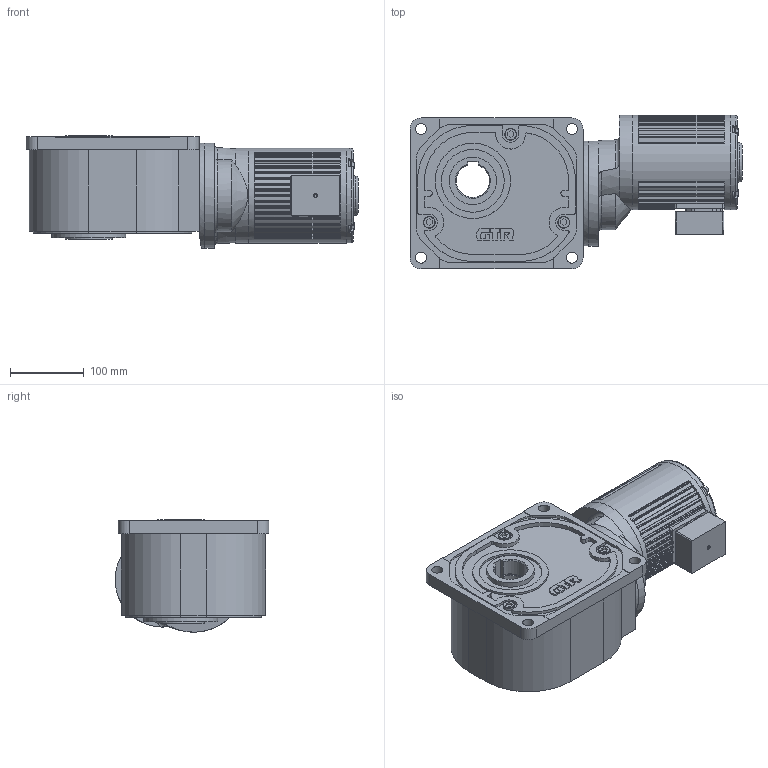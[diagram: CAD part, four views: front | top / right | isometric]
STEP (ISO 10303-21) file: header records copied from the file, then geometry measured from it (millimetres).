
FILE_DESCRIPTION( ( 'STEP AP203' ), ' ' );
FILE_NAME( 'p:/temp/worker_3/2972_348/app_74_12017041201420796102476260eae72_000000_00_00_000000/format_1/FS45N300L-IPM040NJNNone.stp', '2017-04-11T23:42:12', ( '' ), ( '' ), ' ', 'PARTsolutions', ' ' );
FILE_SCHEMA( ( 'CONFIG_CONTROL_DESIGN' ) );
Length unit declared in the file: millimetre
Products named in the file (6): FS45N300L-IPM040NJNNone; _FS45; _FH040; HI_T040; _040IP; _J-BOX040
Assembly tree (5 placements, depth 2):
  FS45N300L-IPM040NJNNone
    _FS45
    _FH040
    HI_T040
    _040IP
    _J-BOX040
Bounding box: 449 x 208 x 152 mm (x, y, z)
Volume: 7700839.9 mm3; surface area: 444287.8 mm2
Topology: 5 solids, 5 shells, 682 faces, 1803 edges, 1192 vertices
Faces by surface type: plane 355, cylinder 300, cone 14, torus 13
Full cylindrical faces by diameter (mm): 8.4 x4, 9.4 x4, 12 x5, 15 x4, 16 x3, 64 x2, 85 x2, 100 x1, 102 x2, 128 x2, 142 x2
Entity records: 21574 total; most frequent: CARTESIAN_POINT 4046, DIRECTION 3807, ORIENTED_EDGE 3502, EDGE_CURVE 1751, AXIS2_PLACEMENT_3D 1415, VERTEX_POINT 1180, LINE 977, VECTOR 977
